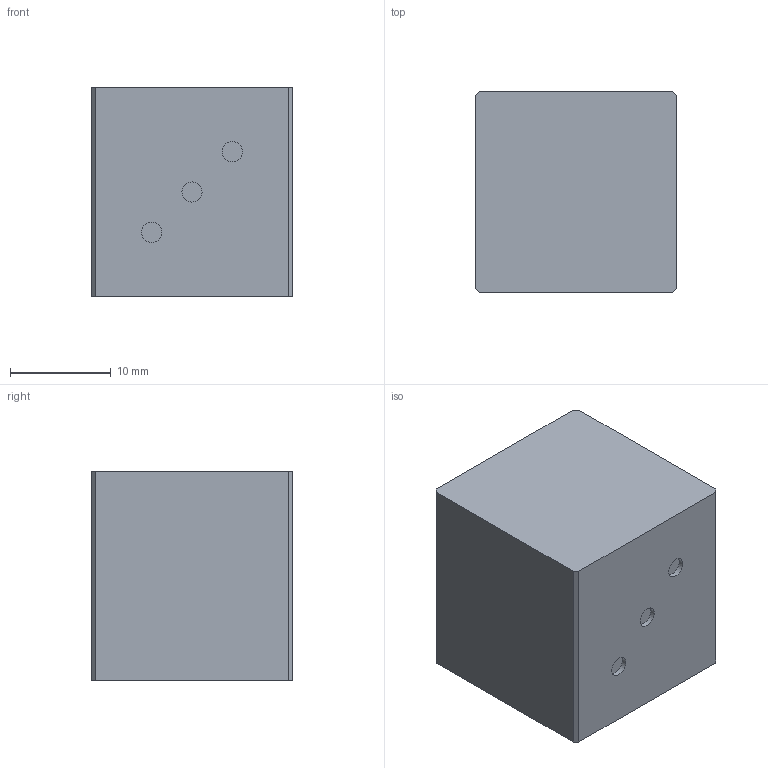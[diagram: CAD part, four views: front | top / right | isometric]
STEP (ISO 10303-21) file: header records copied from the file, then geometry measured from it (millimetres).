
FILE_DESCRIPTION(('Open CASCADE Model'),'2;1');
FILE_NAME('Open CASCADE Shape Model','2026-08-23T08:04:37',('Author'),( 'Open CASCADE'),'Open CASCADE STEP processor 7.9','Open CASCADE 7.9' ,'Unknown');
FILE_SCHEMA(('AUTOMOTIVE_DESIGN { 1 0 10303 214 1 1 1 1 }'));
Length unit declared in the file: millimetre
Products named in the file (2): =>[0:1:1:2]; COMPOUND
Assembly tree (1 placements, depth 2):
  =>[0:1:1:2]
    COMPOUND
Bounding box: 20 x 20 x 20.75 mm (x, y, z)
Volume: 8288.6 mm3; surface area: 2449.3 mm2
Topology: 1 solids, 1 shells, 16 faces, 33 edges, 22 vertices
Faces by surface type: plane 13, cylinder 3
Full cylindrical faces by diameter (mm): 2 x3
Entity records: 905 total; most frequent: CARTESIAN_POINT 157, DIRECTION 138, LINE 87, VECTOR 87, ORIENTED_EDGE 66, PCURVE 66, DEFINITIONAL_REPRESENTATION 66, EDGE_CURVE 33
